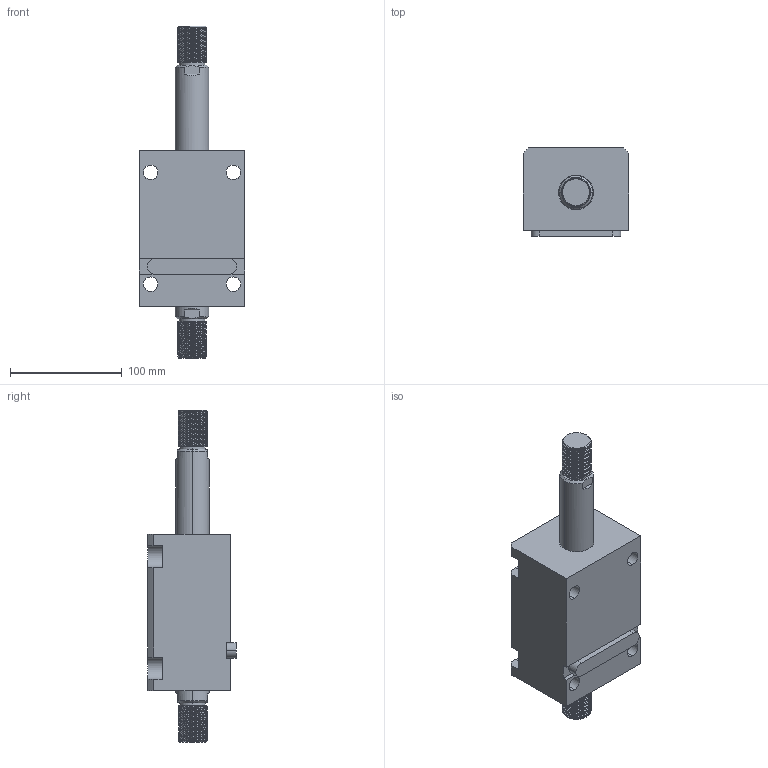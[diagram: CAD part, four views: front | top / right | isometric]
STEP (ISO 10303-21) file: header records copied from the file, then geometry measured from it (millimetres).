
FILE_DESCRIPTION (( 'STEP AP203' ), '1' );
FILE_NAME ('CHTB-LW50-65W.STEP', '2018-05-18T08:34:31', ( '' ), ( '' ), 'SwSTEP 2.0', 'SolidWorks 2015', '' );
FILE_SCHEMA (( 'CONFIG_CONTROL_DESIGN' ));
Length unit declared in the file: millimetre
Products named in the file (4): 活塞杆LW50-65W; CHTB-LW50-65W; 掛极LW50-65W; CHTM-SDMA50QG
Assembly tree (3 placements, depth 2):
  CHTB-LW50-65W
    掛极LW50-65W
    活塞杆LW50-65W
    CHTM-SDMA50QG
Bounding box: 94 x 79 x 297 mm (x, y, z)
Volume: 932458.7 mm3; surface area: 144067.8 mm2
Topology: 3 solids, 3 shells, 310 faces, 854 edges, 568 vertices
Faces by surface type: cylinder 186, plane 63, cone 27, bspline 18, torus 16
Entity records: 19510 total; most frequent: CARTESIAN_POINT 11940, ORIENTED_EDGE 1700, DIRECTION 1310, EDGE_CURVE 850, VERTEX_POINT 568, AXIS2_PLACEMENT_3D 503, EDGE_LOOP 348, ADVANCED_FACE 310
